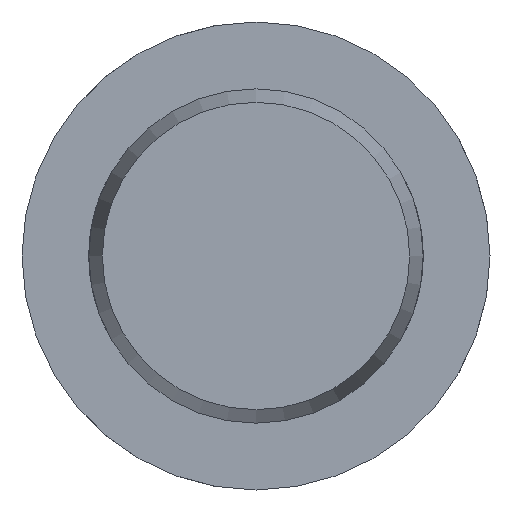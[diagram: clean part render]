
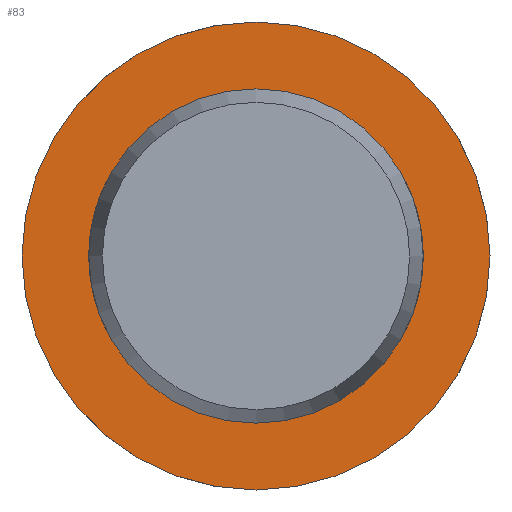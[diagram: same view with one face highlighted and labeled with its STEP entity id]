
A CAD part, left-side view. The second image highlights one B-rep face of the part: STEP entity #83.
In plain terms, the highlighted planar face has unit normal (-1, 0, 0).
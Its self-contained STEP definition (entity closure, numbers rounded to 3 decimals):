
#83 = ADVANCED_FACE( '', ( #129, #130 ), #131, .F. );
#129 = FACE_OUTER_BOUND( '', #208, .T. );
#130 = FACE_BOUND( '', #209, .T. );
#131 = PLANE( '', #210 );
#208 = EDGE_LOOP( '', ( #325 ) );
#209 = EDGE_LOOP( '', ( #326 ) );
#210 = AXIS2_PLACEMENT_3D( '', #327, #328, #329 );
#325 = ORIENTED_EDGE( '', *, *, #493, .F. );
#326 = ORIENTED_EDGE( '', *, *, #483, .T. );
#327 = CARTESIAN_POINT( '', ( 160.5, 10., 0. ) );
#328 = DIRECTION( '', ( 1., 0., 0. ) );
#329 = DIRECTION( '', ( 0., 0., -1. ) );
#483 = EDGE_CURVE( '', #554, #554, #555, .T. );
#493 = EDGE_CURVE( '', #572, #572, #573, .T. );
#554 = VERTEX_POINT( '', #759 );
#555 = CIRCLE( '', #760, 10. );
#572 = VERTEX_POINT( '', #942 );
#573 = CIRCLE( '', #943, 14. );
#759 = CARTESIAN_POINT( '', ( 160.5, 0., -10. ) );
#760 = AXIS2_PLACEMENT_3D( '', #1006, #1007, #1008 );
#942 = CARTESIAN_POINT( '', ( 160.5, 0., -14. ) );
#943 = AXIS2_PLACEMENT_3D( '', #1027, #1028, #1029 );
#1006 = CARTESIAN_POINT( '', ( 160.5, 0., 0. ) );
#1007 = DIRECTION( '', ( 1., 0., 0. ) );
#1008 = DIRECTION( '', ( 0., 0., -1. ) );
#1027 = CARTESIAN_POINT( '', ( 160.5, 0., 0. ) );
#1028 = DIRECTION( '', ( 1., 0., 0. ) );
#1029 = DIRECTION( '', ( 0., 0., -1. ) );
